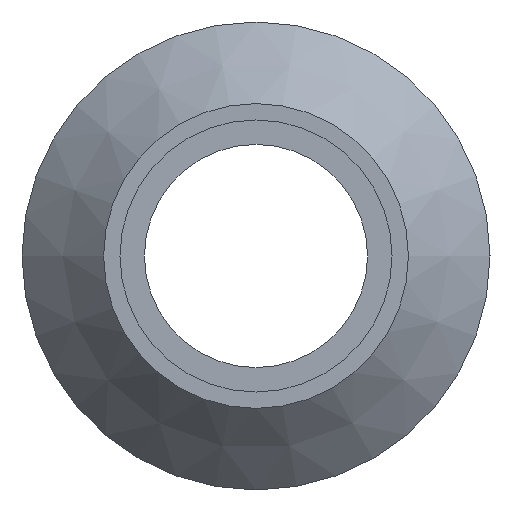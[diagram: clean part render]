
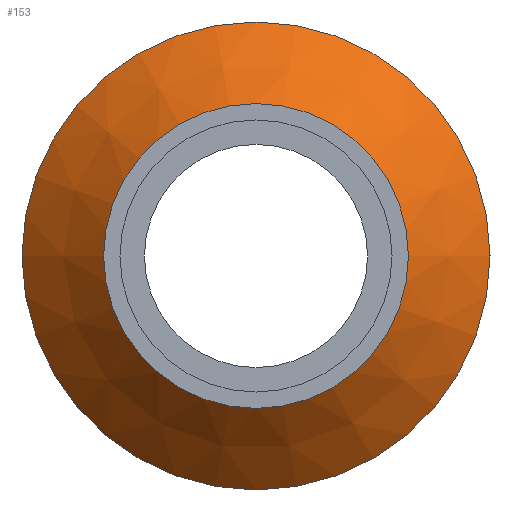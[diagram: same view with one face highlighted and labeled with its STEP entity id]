
A CAD part, left-side view. The second image highlights one B-rep face of the part: STEP entity #153.
In plain terms, the highlighted conical face has half-angle 45 degrees and reference radius 35.5 mm.
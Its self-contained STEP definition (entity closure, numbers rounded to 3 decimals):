
#32=FACE_BOUND($,#69,.T.);
#46=FACE_OUTER_BOUND($,#68,.T.);
#68=EDGE_LOOP($,(#133));
#69=EDGE_LOOP($,(#134));
#84=CIRCLE($,#179,28.);
#85=CIRCLE($,#181,43.);
#97=VERTEX_POINT($,#270);
#98=VERTEX_POINT($,#273);
#110=EDGE_CURVE($,#97,#97,#84,.T.);
#111=EDGE_CURVE($,#98,#98,#85,.T.);
#133=ORIENTED_EDGE($,*,*,#111,.F.);
#134=ORIENTED_EDGE($,*,*,#110,.T.);
#142=CONICAL_SURFACE($,#180,35.5,45.);
#153=ADVANCED_FACE($,(#46,#32),#142,.T.);
#179=AXIS2_PLACEMENT_3D($,#271,#227,#228);
#180=AXIS2_PLACEMENT_3D($,#272,#229,#230);
#181=AXIS2_PLACEMENT_3D($,#274,#231,#232);
#227=DIRECTION('center_axis',(1.,0.,0.));
#228=DIRECTION('ref_axis',(0.,1.,0.));
#229=DIRECTION('center_axis',(1.,0.,0.));
#230=DIRECTION('ref_axis',(0.,1.,0.));
#231=DIRECTION('center_axis',(1.,0.,0.));
#232=DIRECTION('ref_axis',(0.,1.,0.));
#270=CARTESIAN_POINT('',(155.,28.,0.));
#271=CARTESIAN_POINT('Origin',(155.,0.,0.));
#272=CARTESIAN_POINT('Origin',(162.5,0.,0.));
#273=CARTESIAN_POINT('',(170.,43.,0.));
#274=CARTESIAN_POINT('Origin',(170.,0.,0.));
